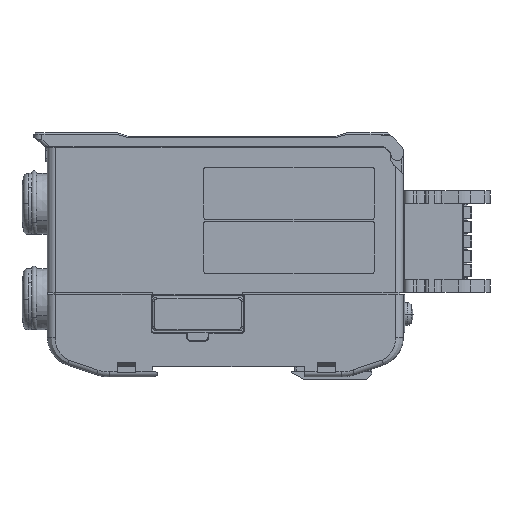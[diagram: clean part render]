
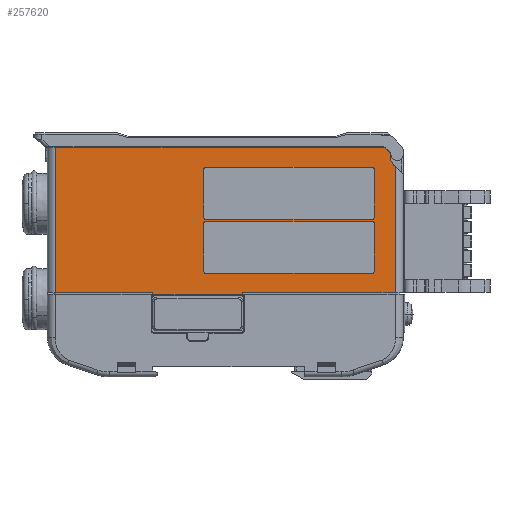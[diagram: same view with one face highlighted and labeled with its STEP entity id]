
A CAD part, left-side view. The second image highlights one B-rep face of the part: STEP entity #257620.
In plain terms, the highlighted planar face has unit normal (-1, 0, 0) as drawn and (1, 0, 0) by its records, which use the part's own axes.
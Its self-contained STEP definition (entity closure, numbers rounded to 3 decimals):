
#245510=CARTESIAN_POINT('',(20.8,44.254,56.046));
#245520=VERTEX_POINT('',#245510);
#245550=CARTESIAN_POINT('',(20.8,0.,100.3));
#245560=DIRECTION('',(0.,0.707,-0.707));
#245570=VECTOR('',#245560,1.);
#245580=LINE('',#245550,#245570);
#245590=CARTESIAN_POINT('',(20.8,43.,57.3));
#245600=VERTEX_POINT('',#245590);
#245610=EDGE_CURVE('',#245600,#245520,#245580,.T.);
#245770=CARTESIAN_POINT('',(20.8,-12.75,0.));
#245780=DIRECTION('',(0.,0.,1.));
#245790=VECTOR('',#245780,1.);
#245800=LINE('',#245770,#245790);
#245810=CARTESIAN_POINT('',(20.8,-12.75,21.8));
#245820=VERTEX_POINT('',#245810);
#245830=CARTESIAN_POINT('',(20.8,-12.75,22.3));
#245840=VERTEX_POINT('',#245830);
#245850=EDGE_CURVE('',#245820,#245840,#245800,.T.);
#255310=CARTESIAN_POINT('',(20.8,37.5,4.6));
#255320=DIRECTION('',(1.,0.,0.));
#255330=DIRECTION('',(0.,-1.,0.));
#255340=AXIS2_PLACEMENT_3D('',#255310,#255320,#255330);
#255350=PLANE('',#255340);
#255360=CARTESIAN_POINT('',(20.8,0.,40.5));
#255370=DIRECTION('',(-1.,0.,0.));
#255380=DIRECTION('',(0.,1.,0.));
#255390=AXIS2_PLACEMENT_3D('',#255360,#255370,#255380);
#255400=CIRCLE('',#255390,0.5);
#255410=CARTESIAN_POINT('',(20.8,0.,40.));
#255420=VERTEX_POINT('',#255410);
#255430=CARTESIAN_POINT('',(20.8,-0.5,40.5));
#255440=VERTEX_POINT('',#255430);
#255450=EDGE_CURVE('',#255420,#255440,#255400,.T.);
#255460=ORIENTED_EDGE('',*,*,#255450,.T.);
#255470=CARTESIAN_POINT('',(20.8,0.,40.));
#255480=DIRECTION('',(0.,1.,0.));
#255490=VECTOR('',#255480,1.);
#255500=LINE('',#255470,#255490);
#255510=CARTESIAN_POINT('',(20.8,40.,40.));
#255520=VERTEX_POINT('',#255510);
#255530=EDGE_CURVE('',#255420,#255520,#255500,.T.);
#255540=ORIENTED_EDGE('',*,*,#255530,.F.);
#255550=CARTESIAN_POINT('',(20.8,40.,40.5));
#255560=DIRECTION('',(-1.,0.,0.));
#255570=DIRECTION('',(0.,1.,0.));
#255580=AXIS2_PLACEMENT_3D('',#255550,#255560,#255570);
#255590=CIRCLE('',#255580,0.5);
#255600=CARTESIAN_POINT('',(20.8,40.5,40.5));
#255610=VERTEX_POINT('',#255600);
#255620=EDGE_CURVE('',#255610,#255520,#255590,.T.);
#255630=ORIENTED_EDGE('',*,*,#255620,.T.);
#255640=CARTESIAN_POINT('',(20.8,40.5,2.));
#255650=DIRECTION('',(0.,0.,1.));
#255660=VECTOR('',#255650,1.);
#255670=LINE('',#255640,#255660);
#255680=CARTESIAN_POINT('',(20.8,40.5,52.));
#255690=VERTEX_POINT('',#255680);
#255700=EDGE_CURVE('',#255610,#255690,#255670,.T.);
#255710=ORIENTED_EDGE('',*,*,#255700,.F.);
#255720=CARTESIAN_POINT('',(20.8,40.,52.));
#255730=DIRECTION('',(-1.,0.,0.));
#255740=DIRECTION('',(0.,-1.,0.));
#255750=AXIS2_PLACEMENT_3D('',#255720,#255730,#255740);
#255760=CIRCLE('',#255750,0.5);
#255770=CARTESIAN_POINT('',(20.8,40.,52.5));
#255780=VERTEX_POINT('',#255770);
#255790=EDGE_CURVE('',#255780,#255690,#255760,.T.);
#255800=ORIENTED_EDGE('',*,*,#255790,.T.);
#255810=CARTESIAN_POINT('',(20.8,0.,52.5));
#255820=DIRECTION('',(0.,-1.,0.));
#255830=VECTOR('',#255820,1.);
#255840=LINE('',#255810,#255830);
#255850=CARTESIAN_POINT('',(20.8,0.,52.5));
#255860=VERTEX_POINT('',#255850);
#255870=EDGE_CURVE('',#255780,#255860,#255840,.T.);
#255880=ORIENTED_EDGE('',*,*,#255870,.F.);
#255890=CARTESIAN_POINT('',(20.8,0.,52.));
#255900=DIRECTION('',(-1.,0.,0.));
#255910=DIRECTION('',(0.,-1.,0.));
#255920=AXIS2_PLACEMENT_3D('',#255890,#255900,#255910);
#255930=CIRCLE('',#255920,0.5);
#255940=CARTESIAN_POINT('',(20.8,-0.5,52.));
#255950=VERTEX_POINT('',#255940);
#255960=EDGE_CURVE('',#255950,#255860,#255930,.T.);
#255970=ORIENTED_EDGE('',*,*,#255960,.T.);
#255980=CARTESIAN_POINT('',(20.8,-0.5,2.));
#255990=DIRECTION('',(0.,0.,-1.));
#256000=VECTOR('',#255990,1.);
#256010=LINE('',#255980,#256000);
#256020=EDGE_CURVE('',#255950,#255440,#256010,.T.);
#256030=ORIENTED_EDGE('',*,*,#256020,.F.);
#256040=EDGE_LOOP('',(#256030,#255970,#255880,#255800,#255710,#255630,
#255540,#255460));
#256050=FACE_BOUND('',#256040,.T.);
#256060=CARTESIAN_POINT('',(20.8,0.,39.));
#256070=DIRECTION('',(-1.,0.,0.));
#256080=DIRECTION('',(0.,1.,0.));
#256090=AXIS2_PLACEMENT_3D('',#256060,#256070,#256080);
#256100=CIRCLE('',#256090,0.5);
#256110=CARTESIAN_POINT('',(20.8,-0.5,39.));
#256120=VERTEX_POINT('',#256110);
#256130=CARTESIAN_POINT('',(20.8,0.,39.5));
#256140=VERTEX_POINT('',#256130);
#256150=EDGE_CURVE('',#256120,#256140,#256100,.T.);
#256160=ORIENTED_EDGE('',*,*,#256150,.T.);
#256170=CARTESIAN_POINT('',(20.8,-0.5,2.));
#256180=DIRECTION('',(0.,0.,-1.));
#256190=VECTOR('',#256180,1.);
#256200=LINE('',#256170,#256190);
#256210=CARTESIAN_POINT('',(20.8,-0.5,27.5));
#256220=VERTEX_POINT('',#256210);
#256230=EDGE_CURVE('',#256120,#256220,#256200,.T.);
#256240=ORIENTED_EDGE('',*,*,#256230,.F.);
#256250=CARTESIAN_POINT('',(20.8,0.,27.5));
#256260=DIRECTION('',(-1.,0.,0.));
#256270=DIRECTION('',(0.,-1.,0.));
#256280=AXIS2_PLACEMENT_3D('',#256250,#256260,#256270);
#256290=CIRCLE('',#256280,0.5);
#256300=CARTESIAN_POINT('',(20.8,0.,27.));
#256310=VERTEX_POINT('',#256300);
#256320=EDGE_CURVE('',#256310,#256220,#256290,.T.);
#256330=ORIENTED_EDGE('',*,*,#256320,.T.);
#256340=CARTESIAN_POINT('',(20.8,0.,27.));
#256350=DIRECTION('',(0.,1.,0.));
#256360=VECTOR('',#256350,1.);
#256370=LINE('',#256340,#256360);
#256380=CARTESIAN_POINT('',(20.8,40.,27.));
#256390=VERTEX_POINT('',#256380);
#256400=EDGE_CURVE('',#256310,#256390,#256370,.T.);
#256410=ORIENTED_EDGE('',*,*,#256400,.F.);
#256420=CARTESIAN_POINT('',(20.8,40.,27.5));
#256430=DIRECTION('',(1.,0.,0.));
#256440=DIRECTION('',(0.,1.,0.));
#256450=AXIS2_PLACEMENT_3D('',#256420,#256430,#256440);
#256460=CIRCLE('',#256450,0.5);
#256470=CARTESIAN_POINT('',(20.8,40.5,27.5));
#256480=VERTEX_POINT('',#256470);
#256490=EDGE_CURVE('',#256390,#256480,#256460,.T.);
#256500=ORIENTED_EDGE('',*,*,#256490,.F.);
#256510=CARTESIAN_POINT('',(20.8,40.5,2.));
#256520=DIRECTION('',(0.,0.,1.));
#256530=VECTOR('',#256520,1.);
#256540=LINE('',#256510,#256530);
#256550=CARTESIAN_POINT('',(20.8,40.5,39.));
#256560=VERTEX_POINT('',#256550);
#256570=EDGE_CURVE('',#256480,#256560,#256540,.T.);
#256580=ORIENTED_EDGE('',*,*,#256570,.F.);
#256590=CARTESIAN_POINT('',(20.8,40.,39.));
#256600=DIRECTION('',(-1.,0.,0.));
#256610=DIRECTION('',(0.,1.,0.));
#256620=AXIS2_PLACEMENT_3D('',#256590,#256600,#256610);
#256630=CIRCLE('',#256620,0.5);
#256640=CARTESIAN_POINT('',(20.8,40.,39.5));
#256650=VERTEX_POINT('',#256640);
#256660=EDGE_CURVE('',#256650,#256560,#256630,.T.);
#256670=ORIENTED_EDGE('',*,*,#256660,.T.);
#256680=CARTESIAN_POINT('',(20.8,0.,39.5));
#256690=DIRECTION('',(0.,-1.,0.));
#256700=VECTOR('',#256690,1.);
#256710=LINE('',#256680,#256700);
#256720=EDGE_CURVE('',#256650,#256140,#256710,.T.);
#256730=ORIENTED_EDGE('',*,*,#256720,.F.);
#256740=EDGE_LOOP('',(#256730,#256670,#256580,#256500,#256410,#256330,
#256240,#256160));
#256750=FACE_BOUND('',#256740,.T.);
#256760=ORIENTED_EDGE('',*,*,#245610,.F.);
#256770=CARTESIAN_POINT('',(20.8,43.9,55.693));
#256780=DIRECTION('',(1.,0.,0.));
#256790=DIRECTION('',(0.,-1.,0.));
#256800=AXIS2_PLACEMENT_3D('',#256770,#256780,#256790);
#256810=CIRCLE('',#256800,0.5);
#256820=CARTESIAN_POINT('',(20.8,44.4,55.693));
#256830=VERTEX_POINT('',#256820);
#256840=EDGE_CURVE('',#256830,#245520,#256810,.T.);
#256850=ORIENTED_EDGE('',*,*,#256840,.T.);
#256860=CARTESIAN_POINT('',(20.8,44.4,2.));
#256870=DIRECTION('',(0.,0.,-1.));
#256880=VECTOR('',#256870,1.);
#256890=LINE('',#256860,#256880);
#256900=CARTESIAN_POINT('',(20.8,44.4,54.728));
#256910=VERTEX_POINT('',#256900);
#256920=EDGE_CURVE('',#256830,#256910,#256890,.T.);
#256930=ORIENTED_EDGE('',*,*,#256920,.F.);
#256940=CARTESIAN_POINT('',(20.8,46.4,54.728));
#256950=DIRECTION('',(1.,0.,0.));
#256960=DIRECTION('',(0.,-1.,0.));
#256970=AXIS2_PLACEMENT_3D('',#256940,#256950,#256960);
#256980=CIRCLE('',#256970,2.);
#256990=CARTESIAN_POINT('',(20.8,44.986,53.314));
#257000=VERTEX_POINT('',#256990);
#257010=EDGE_CURVE('',#256910,#257000,#256980,.T.);
#257020=ORIENTED_EDGE('',*,*,#257010,.F.);
#257030=CARTESIAN_POINT('',(20.8,0.,98.3));
#257040=DIRECTION('',(0.,-0.707,0.707));
#257050=VECTOR('',#257040,1.);
#257060=LINE('',#257030,#257050);
#257070=CARTESIAN_POINT('',(20.8,45.5,52.8));
#257080=VERTEX_POINT('',#257070);
#257090=EDGE_CURVE('',#257080,#257000,#257060,.T.);
#257100=ORIENTED_EDGE('',*,*,#257090,.T.);
#257110=CARTESIAN_POINT('',(20.8,45.5,2.));
#257120=DIRECTION('',(0.,0.,1.));
#257130=VECTOR('',#257120,1.);
#257140=LINE('',#257110,#257130);
#257150=CARTESIAN_POINT('',(20.8,45.5,22.3));
#257160=VERTEX_POINT('',#257150);
#257170=EDGE_CURVE('',#257160,#257080,#257140,.T.);
#257180=ORIENTED_EDGE('',*,*,#257170,.T.);
#257190=CARTESIAN_POINT('',(20.8,0.,22.3));
#257200=DIRECTION('',(0.,-1.,0.));
#257210=VECTOR('',#257200,1.);
#257220=LINE('',#257190,#257210);
#257230=CARTESIAN_POINT('',(20.8,8.85,22.3));
#257240=VERTEX_POINT('',#257230);
#257250=EDGE_CURVE('',#257160,#257240,#257220,.T.);
#257260=ORIENTED_EDGE('',*,*,#257250,.F.);
#257270=CARTESIAN_POINT('',(20.8,8.85,0.));
#257280=DIRECTION('',(0.,0.,-1.));
#257290=VECTOR('',#257280,1.);
#257300=LINE('',#257270,#257290);
#257310=CARTESIAN_POINT('',(20.8,8.85,21.8));
#257320=VERTEX_POINT('',#257310);
#257330=EDGE_CURVE('',#257240,#257320,#257300,.T.);
#257340=ORIENTED_EDGE('',*,*,#257330,.F.);
#257350=CARTESIAN_POINT('',(20.8,-1.95,21.8));
#257360=DIRECTION('',(0.,-1.,0.));
#257370=VECTOR('',#257360,1.);
#257380=LINE('',#257350,#257370);
#257390=EDGE_CURVE('',#257320,#245820,#257380,.T.);
#257400=ORIENTED_EDGE('',*,*,#257390,.F.);
#257410=ORIENTED_EDGE('',*,*,#245850,.F.);
#257420=CARTESIAN_POINT('',(20.8,-36.1,22.3));
#257430=VERTEX_POINT('',#257420);
#257440=EDGE_CURVE('',#245840,#257430,#257220,.T.);
#257450=ORIENTED_EDGE('',*,*,#257440,.F.);
#257460=CARTESIAN_POINT('',(20.8,-36.1,2.));
#257470=DIRECTION('',(0.,0.,-1.));
#257480=VECTOR('',#257470,1.);
#257490=LINE('',#257460,#257480);
#257500=CARTESIAN_POINT('',(20.8,-36.1,57.3));
#257510=VERTEX_POINT('',#257500);
#257520=EDGE_CURVE('',#257510,#257430,#257490,.T.);
#257530=ORIENTED_EDGE('',*,*,#257520,.T.);
#257540=CARTESIAN_POINT('',(20.8,0.,57.3));
#257550=DIRECTION('',(0.,-1.,0.));
#257560=VECTOR('',#257550,1.);
#257570=LINE('',#257540,#257560);
#257580=EDGE_CURVE('',#245600,#257510,#257570,.T.);
#257590=ORIENTED_EDGE('',*,*,#257580,.T.);
#257600=EDGE_LOOP('',(#257590,#257530,#257450,#257410,#257400,#257340,
#257260,#257180,#257100,#257020,#256930,#256850,#256760));
#257610=FACE_OUTER_BOUND('',#257600,.T.);
#257620=ADVANCED_FACE('',(#256050,#256750,#257610),#255350,.T.);
